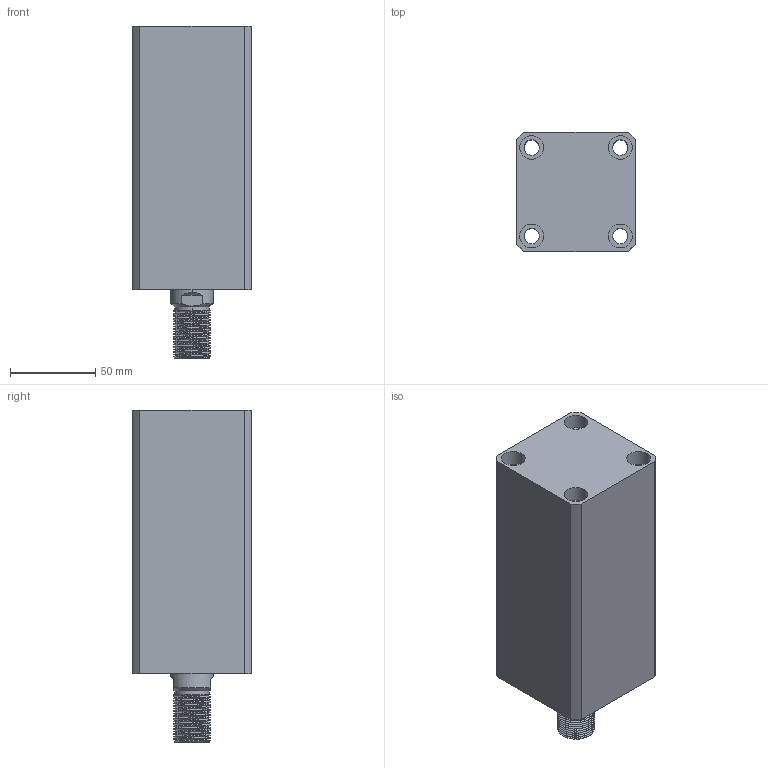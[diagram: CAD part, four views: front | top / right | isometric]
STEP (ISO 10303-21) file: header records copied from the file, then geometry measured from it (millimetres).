
FILE_DESCRIPTION (( 'STEP AP214' ), '1' );
FILE_NAME ('chtb-sd40x100w_asm.STEP', '2018-06-08T06:14:31', ( 'Windows' ), ( 'Microsoft' ), 'SwSTEP 2.0', 'SolidWorks 2015', '' );
FILE_SCHEMA (( 'AUTOMOTIVE_DESIGN' ));
Length unit declared in the file: millimetre
Products named in the file (4): CHTB-SD40QG; CHTB-SD40X100WHSG; CHTB-SD40X100NBT; chtb-sd40x100w_asm
Assembly tree (3 placements, depth 2):
  chtb-sd40x100w_asm
    CHTB-SD40X100NBT
    CHTB-SD40X100WHSG
    CHTB-SD40QG
Bounding box: 70 x 70 x 195 mm (x, y, z)
Volume: 639055 mm3; surface area: 121071.3 mm2
Topology: 3 solids, 4 shells, 203 faces, 533 edges, 355 vertices
Faces by surface type: cylinder 118, plane 40, bspline 16, cone 15, torus 14
Entity records: 13409 total; most frequent: CARTESIAN_POINT 8538, ORIENTED_EDGE 1054, DIRECTION 914, EDGE_CURVE 527, AXIS2_PLACEMENT_3D 380, VERTEX_POINT 355, EDGE_LOOP 240, ADVANCED_FACE 203
